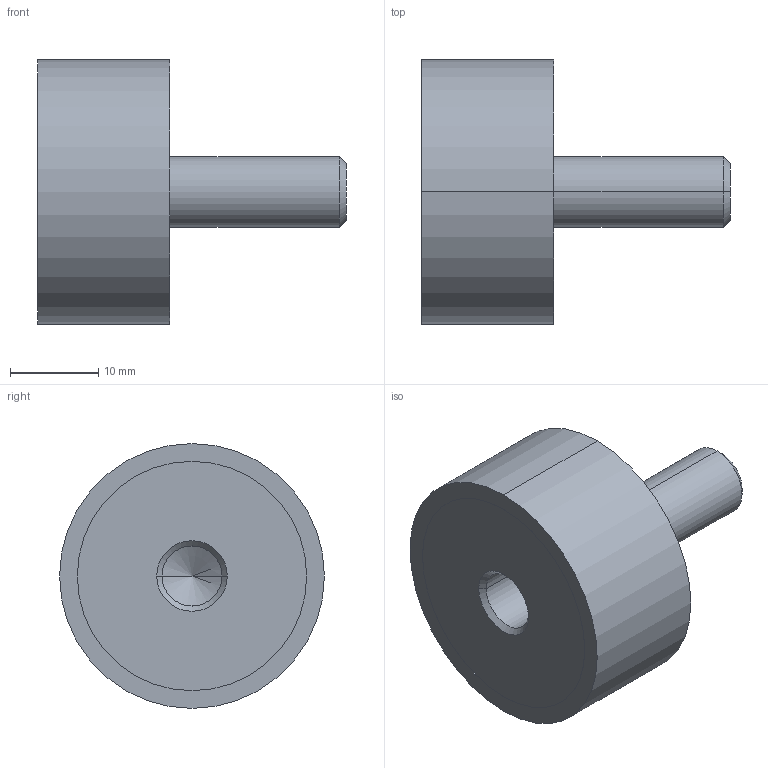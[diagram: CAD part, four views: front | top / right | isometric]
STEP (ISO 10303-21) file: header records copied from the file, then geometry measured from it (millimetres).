
FILE_DESCRIPTION (( 'STEP AP214' ), '1' );
FILE_NAME ('351-30-15-M8-ES-70.step', '2025-07-23T09:42:19', ( '' ), ( '' ), 'SwSTEP 2.0', 'SolidWorks 2022', '' );
FILE_SCHEMA (( 'AUTOMOTIVE_DESIGN' ));
Length unit declared in the file: millimetre
Products named in the file (1): 351-30-15-M8-ES-70
Bounding box: 35 x 30 x 30 mm (x, y, z)
Volume: 11237.4 mm3; surface area: 3509.7 mm2
Topology: 1 solids, 1 shells, 24 faces, 48 edges, 29 vertices
Faces by surface type: cylinder 12, cone 6, plane 6
Entity records: 740 total; most frequent: DIRECTION 124, CARTESIAN_POINT 100, ORIENTED_EDGE 92, AXIS2_PLACEMENT_3D 53, EDGE_CURVE 46, VERTEX_POINT 29, EDGE_LOOP 29, CIRCLE 28
